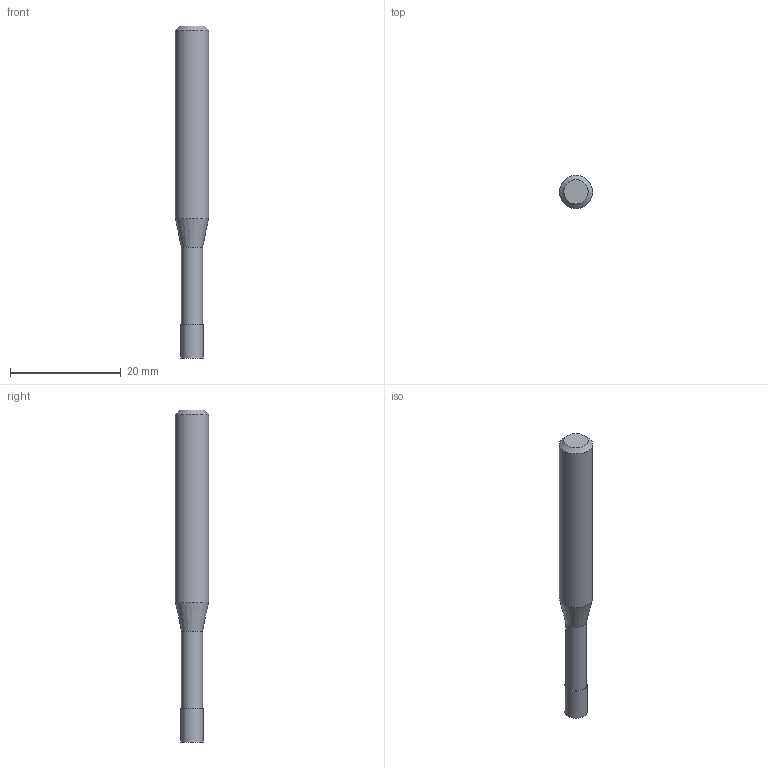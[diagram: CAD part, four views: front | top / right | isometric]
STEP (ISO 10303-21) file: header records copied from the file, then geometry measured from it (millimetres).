
FILE_DESCRIPTION((''),'2;1');
FILE_NAME('C:\Users\nsx150\AppData\Local\Temp\Mastercam 2021\17T8Q8S9EB\TEMP.step','2021-04-21T14:28:42',(''),(''),'STEP Write','Mastercam 2021 ... CNC Software, Inc.','');
FILE_SCHEMA(('AUTOMOTIVE_DESIGN'));
Length unit declared in the file: millimetre
Products named in the file (1): None
Bounding box: 6 x 6 x 60 mm (x, y, z)
Volume: 1312.6 mm3; surface area: 1035.5 mm2
Topology: 2 solids, 2 shells, 9 faces, 12 edges, 7 vertices
Faces by surface type: plane 4, cylinder 3, cone 2
Full cylindrical faces by diameter (mm): 3.8 x1, 4 x1, 6 x1
Entity records: 211 total; most frequent: DIRECTION 36, CARTESIAN_POINT 25, AXIS2_PLACEMENT_3D 18, ORIENTED_EDGE 14, EDGE_LOOP 14, STYLED_ITEM 12, ADVANCED_FACE 9, FACE_BOUND 8
